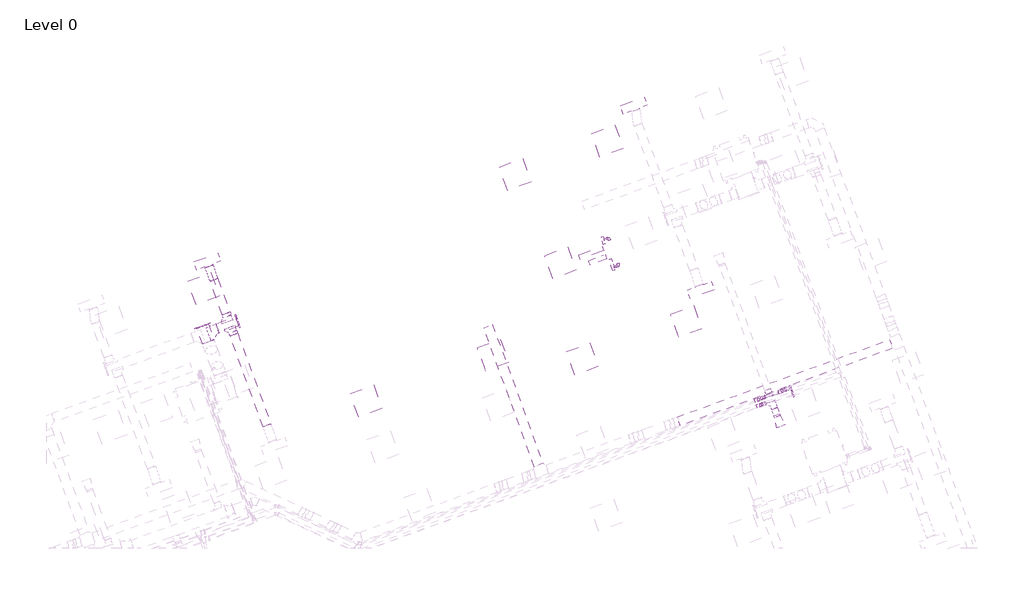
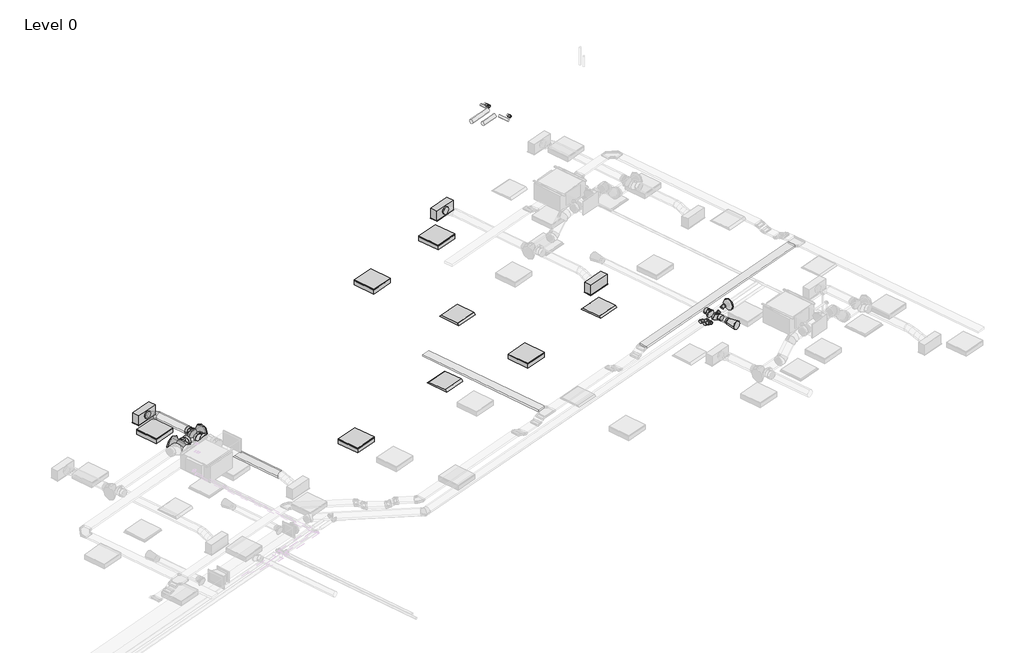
# One storey, part 31 of 34: 10 pipe segments, 8 duct fittings, 8 light fixtures, 8 pipe fittings, 6 duct segments, 4 air terminals, 2 cable carrier segments.
"""IFC4 building model written with IfcOpenShell, lengths in millimetres."""

from ifc_helpers import new_model, si_unit, point, frame, frame_2d, origin, place, context, project, spatial, polyline, circle_curve, ellipse_curve, trimmed, segment, composite_curve, outline, extrude, transform, mapped, element, save
from ifc_brep_helpers import plane_surface, cylinder_surface, advanced_brep
from components import air_terminal_0d1c431e, supply_diffuser_with_plenum_linear_slot_hosted_2b730595, dw144_round_blank_end_standard_8c6f93a0, dw144_round_blank_end_standard_e3d0b58b, dw144_round_blank_end_standard_5beff049, dw144_round_shoe_branch_slip_joint1_standard_2_0dbb398a, dw144_round_shoe_branch_slip_joint1_standard_2_15a2edd8, dw144_round_shoe_branch_slip_joint1_standard_2_ce91aa06, dw144_round_shoe_branch_slip_joint1_standard_2_54bfcc3c, light_fixture_b730b5ca, troffer_light_2x2_parabolic_2_x2_2_lamp_120v_6a063ff3, elbow_plain_abs_standard_192b4b37, elbow_threaded_gmi_standard_e52ea759

model = new_model("IFC4")

# Units and contexts
model_context = context("Model", 3, world=origin())
ifc_project = project(units=[si_unit("LENGTHUNIT", "METRE", prefix="MILLI")], contexts=[model_context])

# Site, building, storey
site = spatial("IfcSite", under=ifc_project)
building = spatial("IfcBuilding", under=site)
storey = spatial("IfcBuildingStorey", under=building, Name="Level 0", Elevation=0.0)

# Air terminals
placement = place(None, origin())
air_terminal_shape = air_terminal_0d1c431e(model_context)
element("IfcAirTerminal", 1, ObjectType="Supply_Bell_Mouth_Grille : Supply_Bell_Mouth_Grille", at=placement, inside=storey, context=model_context, shape_type="MappedRepresentation", body=[
    mapped(air_terminal_shape, transform((59441.0619748, 16002.7415496, 3050.0), x_axis=(0.3420201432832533, -0.9396926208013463, 0.0), y_axis=(0.9396926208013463, 0.3420201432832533, 0.0), z_axis=(0.0, 0.0, 1.0))),
])
supply_diffuser_with_plenum_linear_slot_hosted_shape = supply_diffuser_with_plenum_linear_slot_hosted_2b730595(model_context)
element("IfcAirTerminal", 2, ObjectType="Supply Diffuser with Plenum - Linear Slot - Hosted : 24\" x 8\"-200 In Inlet  4-Slot", at=placement, inside=storey, context=model_context, shape_type="MappedRepresentation", body=[
    mapped(supply_diffuser_with_plenum_linear_slot_hosted_shape, transform((45507.8020498, 19798.6228469, 2800.0), x_axis=(-0.9396926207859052, -0.3420201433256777, 0.0), y_axis=(-0.3420201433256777, 0.9396926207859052, 0.0), z_axis=(0.0, 0.0, -1.0))),
])
element("IfcAirTerminal", 3, ObjectType="Supply Diffuser with Plenum - Linear Slot - Hosted : 24\" x 8\"-200 In Inlet  4-Slot", at=placement, inside=storey, context=model_context, shape_type="MappedRepresentation", body=[
    mapped(supply_diffuser_with_plenum_linear_slot_hosted_shape, transform((55928.2677465, 23610.3577605, 2800.0), x_axis=(-0.9396926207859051, -0.3420201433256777, 0.0), y_axis=(-0.3420201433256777, 0.9396926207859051, 0.0), z_axis=(0.0, 0.0, -1.0))),
])
element("IfcAirTerminal", 4, ObjectType="Supply Diffuser with Plenum - Linear Slot - Hosted : 24\" x 8\"-200 In Inlet  4-Slot", at=placement, inside=storey, context=model_context, shape_type="MappedRepresentation", body=[
    mapped(supply_diffuser_with_plenum_linear_slot_hosted_shape, transform((57569.9644345, 19099.8331807, 2800.0), x_axis=(0.939692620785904, 0.342020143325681, 0.0), y_axis=(0.342020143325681, -0.939692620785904, 0.0), z_axis=(0.0, 0.0, -1.0))),
])

# Cable carrier segments
element("IfcCableCarrierSegment", 5, ObjectType="Perforated Cable Tray", at=placement, inside=storey, context=model_context, shape_type="SweptSolid", body=[
    extrude(outline(polyline([(57064.256116, 15784.4127054), (56987.3015838, 15995.8435451), (62175.5159364, 17884.1991384), (62252.4704687, 17672.7682988), (57064.256116, 15784.4127054)])), frame((0.0, 0.0, 3223.9627355), z_axis=(0.0, 0.0, 1.0), x_axis=(1.0, 0.0, 0.0)), (0.0, 0.0, 1.0), 50.0),
])
element("IfcCableCarrierSegment", 6, ObjectType="Perforated Cable Tray", at=placement, inside=storey, context=model_context, shape_type="SweptSolid", body=[
    extrude(outline(polyline([(53712.3288317, 14857.0598339), (53500.897992, 14780.1053017), (52264.8463348, 18176.1293191), (52476.2771745, 18253.0838513), (53712.3288317, 14857.0598339)])), frame((0.0, 0.0, 3223.9627355), z_axis=(0.0, 0.0, 1.0), x_axis=(1.0, 0.0, 0.0)), (0.0, 0.0, 1.0), 50.0),
])

# Duct fittings
dw144_round_blank_end_standard_shape = dw144_round_blank_end_standard_8c6f93a0(model_context)
element("IfcDuctFitting", 7, ObjectType="DW144 Round Blank End : Standard", at=placement, inside=storey, context=model_context, shape_type="MappedRepresentation", body=[
    mapped(dw144_round_blank_end_standard_shape, transform((45393.8401716, 18213.3017532, 3072.2088531), x_axis=(-0.3420201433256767, 0.9396926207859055, 0.0), y_axis=(-0.9396926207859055, -0.3420201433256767, 0.0), z_axis=(0.0, 0.0, 1.0))),
])
dw144_round_blank_end_standard_2_shape = dw144_round_blank_end_standard_e3d0b58b(model_context)
element("IfcDuctFitting", 8, ObjectType="DW144 Round Blank End : Standard", at=placement, inside=storey, context=model_context, shape_type="MappedRepresentation", body=[
    mapped(dw144_round_blank_end_standard_2_shape, transform((46241.3458374, 18331.6052055, 3072.2088531), x_axis=(0.9396926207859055, 0.3420201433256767, 0.0), y_axis=(-0.3420201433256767, 0.9396926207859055, 0.0), z_axis=(0.0, 0.0, 1.0))),
])
dw144_round_blank_end_standard_3_shape = dw144_round_blank_end_standard_5beff049(model_context)
element("IfcDuctFitting", 9, ObjectType="DW144 Round Blank End : Standard", at=placement, inside=storey, context=model_context, shape_type="MappedRepresentation", body=[
    mapped(dw144_round_blank_end_standard_3_shape, transform((59783.5120284, 16619.7977036, 3050.0), x_axis=(0.9396926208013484, 0.34202014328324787, 0.0), y_axis=(-0.34202014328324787, 0.9396926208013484, 0.0), z_axis=(0.0, 0.0, 1.0))),
])
dw144_round_shoe_branch_slip_joint1_standard_2_shape = dw144_round_shoe_branch_slip_joint1_standard_2_0dbb398a(model_context)
element("IfcDuctFitting", 10, ObjectType="DW144 Round Shoe Branch - Slip Joint1 : Standard 2", at=placement, inside=storey, context=model_context, shape_type="MappedRepresentation", body=[
    mapped(dw144_round_shoe_branch_slip_joint1_standard_2_shape, transform((45595.9113981, 18096.6862814, 3072.2088531), x_axis=(0.9396926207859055, 0.3420201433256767, 0.0), y_axis=(0.3420201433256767, -0.9396926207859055, 0.0), z_axis=(0.0, 0.0, -1.0))),
])
dw144_round_shoe_branch_slip_joint1_standard_2_2_shape = dw144_round_shoe_branch_slip_joint1_standard_2_15a2edd8(model_context)
element("IfcDuctFitting", 11, ObjectType="DW144 Round Shoe Branch - Slip Joint1 : Standard 2", at=placement, inside=storey, context=model_context, shape_type="MappedRepresentation", body=[
    mapped(dw144_round_shoe_branch_slip_joint1_standard_2_2_shape, transform((46022.3482361, 18384.9188188, 3072.2088531), x_axis=(-0.3420201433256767, 0.9396926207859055, 0.0), y_axis=(0.9396926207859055, 0.3420201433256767, 0.0), z_axis=(0.0, 0.0, -1.0))),
])
element("IfcDuctFitting", 12, ObjectType="DW144 Round Shoe Branch - Slip Joint1 : Standard 2", at=placement, inside=storey, context=model_context, shape_type="MappedRepresentation", body=[
    mapped(dw144_round_shoe_branch_slip_joint1_standard_2_2_shape, transform((46107.8532719, 18149.9956636, 3072.2088531), x_axis=(0.3420201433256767, -0.9396926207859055, 0.0), y_axis=(0.9396926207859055, 0.3420201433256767, 0.0), z_axis=(0.0, 0.0, 1.0))),
])
dw144_round_shoe_branch_slip_joint1_standard_2_3_shape = dw144_round_shoe_branch_slip_joint1_standard_2_ce91aa06(model_context)
element("IfcDuctFitting", 13, ObjectType="DW144 Round Shoe Branch - Slip Joint1 : Standard 2", at=placement, inside=storey, context=model_context, shape_type="MappedRepresentation", body=[
    mapped(dw144_round_shoe_branch_slip_joint1_standard_2_3_shape, transform((59248.6009819, 16531.5237819, 3050.0), x_axis=(-0.34202014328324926, 0.9396926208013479, 0.0), y_axis=(0.9396926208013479, 0.34202014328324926, 0.0), z_axis=(0.0, 0.0, -1.0))),
])
dw144_round_shoe_branch_slip_joint1_standard_2_4_shape = dw144_round_shoe_branch_slip_joint1_standard_2_54bfcc3c(model_context)
element("IfcDuctFitting", 14, ObjectType="DW144 Round Shoe Branch - Slip Joint1 : Standard 2", at=placement, inside=storey, context=model_context, shape_type="MappedRepresentation", body=[
    mapped(dw144_round_shoe_branch_slip_joint1_standard_2_4_shape, transform((59317.0050106, 16343.5852578, 3050.0), x_axis=(0.3420201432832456, -0.9396926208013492, 0.0), y_axis=(-0.9396926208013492, -0.3420201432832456, 0.0), z_axis=(0.0, 0.0, -1.0))),
])

# Duct segments
element("IfcDuctSegment", 15, ObjectType="DW144 Segmented Bend / Shoe Branch", at=placement, inside=storey, context=model_context, shape_type="SweptSolid", body=[
    extrude(outline(composite_curve([segment(trimmed(circle_curve(frame_2d((0.0, 150.0)), 150.0), [point((150.0, 150.0))], [point((0.0, 0.0))], False, "CARTESIAN"), True, "CONTINUOUS"), segment(trimmed(circle_curve(frame_2d((0.0, 150.0)), 150.0), [point((0.0, 0.0))], [point((-150.0, 150.0))], False, "CARTESIAN"), True, "CONTINUOUS"), segment(trimmed(circle_curve(frame_2d((0.0, 150.0)), 150.0), [point((-150.0, 150.0))], [point((0.0, 300.0))], False, "CARTESIAN"), True, "CONTINUOUS"), segment(trimmed(circle_curve(frame_2d((0.0, 150.0)), 150.0), [point((0.0, 300.0))], [point((150.0, 150.0))], False, "CARTESIAN"), True, "CONTINUOUS")], self_intersect=False)), frame((45534.539793, 17826.7327206, 3222.2088531), z_axis=(-0.34202014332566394, 0.9396926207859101, 0.0), x_axis=(0.9396926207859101, 0.34202014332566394, 0.0)), (0.0, 0.0, 1.0), 411.3781721),
])
element("IfcDuctSegment", 16, ObjectType="DW144 Segmented Bend / Shoe Branch", at=placement, inside=storey, context=model_context, shape_type="SweptSolid", body=[
    extrude(outline(composite_curve([segment(trimmed(circle_curve(frame_2d((0.0, 125.0)), 125.0), [point((125.0, 125.0))], [point((0.0, 0.0))], False, "CARTESIAN"), True, "CONTINUOUS"), segment(trimmed(circle_curve(frame_2d((0.0, 125.0)), 125.0), [point((0.0, 0.0))], [point((-125.0, 125.0))], False, "CARTESIAN"), True, "CONTINUOUS"), segment(trimmed(circle_curve(frame_2d((0.0, 125.0)), 125.0), [point((-125.0, 125.0))], [point((0.0, 250.0))], False, "CARTESIAN"), True, "CONTINUOUS"), segment(trimmed(circle_curve(frame_2d((0.0, 125.0)), 125.0), [point((0.0, 250.0))], [point((125.0, 125.0))], False, "CARTESIAN"), True, "CONTINUOUS")], self_intersect=False)), frame((45760.3576068, 18156.5398065, 3197.2088531), z_axis=(0.9396926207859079, 0.3420201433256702, 0.0), x_axis=(0.3420201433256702, -0.9396926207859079, 0.0)), (0.0, 0.0, 1.0), 511.8569839),
])
element("IfcDuctSegment", 17, ObjectType="DW144 Segmented Bend / Shoe Branch", at=placement, inside=storey, context=model_context, shape_type="SweptSolid", body=[
    extrude(outline(composite_curve([segment(trimmed(circle_curve(frame_2d((0.0, 100.0)), 100.0), [point((100.0, 100.0))], [point((0.0, 0.0))], False, "CARTESIAN"), True, "CONTINUOUS"), segment(trimmed(circle_curve(frame_2d((0.0, 100.0)), 100.0), [point((0.0, 0.0))], [point((-100.0, 100.0))], False, "CARTESIAN"), True, "CONTINUOUS"), segment(trimmed(circle_curve(frame_2d((0.0, 100.0)), 100.0), [point((-100.0, 100.0))], [point((0.0, 200.0))], False, "CARTESIAN"), True, "CONTINUOUS"), segment(trimmed(circle_curve(frame_2d((0.0, 100.0)), 100.0), [point((0.0, 200.0))], [point((100.0, 100.0))], False, "CARTESIAN"), True, "CONTINUOUS")], self_intersect=False)), frame((45971.0452146, 18525.8727119, 3172.2088531), z_axis=(-0.34202014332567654, 0.9396926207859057, 0.0), x_axis=(0.9396926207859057, 0.34202014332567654, 0.0)), (0.0, 0.0, 1.0), 876.1305848),
])
element("IfcDuctSegment", 18, ObjectType="DW144 Segmented Bend / Shoe Branch", at=placement, inside=storey, context=model_context, shape_type="SweptSolid", body=[
    extrude(outline(composite_curve([segment(trimmed(circle_curve(frame_2d((0.0, -100.0)), 100.0), [point((-99.9999999, -100.0))], [point((0.0, 0.0))], False, "CARTESIAN"), True, "CONTINUOUS"), segment(trimmed(circle_curve(frame_2d((0.0, -100.0)), 100.0), [point((0.0, 0.0))], [point((100.0, -100.0))], False, "CARTESIAN"), True, "CONTINUOUS"), segment(trimmed(circle_curve(frame_2d((0.0, -100.0)), 100.0), [point((100.0, -100.0))], [point((0.0, -200.0))], False, "CARTESIAN"), True, "CONTINUOUS"), segment(trimmed(circle_curve(frame_2d((0.0, -100.0)), 100.0), [point((0.0, -200.0))], [point((-99.9999999, -100.0))], False, "CARTESIAN"), True, "CONTINUOUS")], self_intersect=False)), frame((46967.6472496, 15787.7311245, 2972.2088531), z_axis=(-0.34202014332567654, 0.9396926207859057, 0.0), x_axis=(0.9396926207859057, 0.34202014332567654, 0.0)), (0.0, 0.0, 1.0), 2363.8694152),
])
element("IfcDuctSegment", 19, ObjectType="DW144 Segmented Bend / Shoe Branch", at=placement, inside=storey, context=model_context, shape_type="SweptSolid", body=[
    extrude(outline(composite_curve([segment(trimmed(circle_curve(frame_2d((0.0, -75.0)), 75.0), [point((-74.9999999, -75.0))], [point((0.0, 0.0))], False, "CARTESIAN"), True, "CONTINUOUS"), segment(trimmed(circle_curve(frame_2d((0.0, -75.0)), 75.0), [point((0.0, 0.0))], [point((75.0, -75.0))], False, "CARTESIAN"), True, "CONTINUOUS"), segment(trimmed(circle_curve(frame_2d((0.0, -75.0)), 75.0), [point((75.0, -75.0))], [point((0.0, -150.0))], False, "CARTESIAN"), True, "CONTINUOUS"), segment(trimmed(circle_curve(frame_2d((0.0, -75.0)), 75.0), [point((0.0, -150.0))], [point((-74.9999999, -75.0))], False, "CARTESIAN"), True, "CONTINUOUS")], self_intersect=False)), frame((59441.0619748, 16002.7415496, 2975.0), z_axis=(-0.34202014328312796, 0.939692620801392, 0.0), x_axis=(0.939692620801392, 0.34202014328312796, 0.0)), (0.0, 0.0, 1.0), 212.7182981),
])
element("IfcDuctSegment", 20, ObjectType="Flex - Round", at=placement, inside=storey, context=model_context, shape_type="AdvancedBrep", body=[
    advanced_brep(
    [(45577.4216444, 19314.9641429, 3072.2088531), (45671.3909064, 19349.1661573, 2972.2088531), (45765.3601685, 19383.3681716, 3072.2088531), (45671.3909064, 19349.1661573, 3172.2088531), (45570.5409158, 19333.8687892, 3072.2088531), (45668.9621271, 19355.8391736, 2972.2088531), (45758.47944, 19402.2728178, 3072.2088531), (45660.0582287, 19380.3024334, 3172.2088531), (45457.269346, 19645.0798697, 2954.4), (45551.238608, 19679.281884, 3054.4), (45645.2078701, 19713.4838984, 2954.4), (45551.238608, 19679.281884, 2854.4), (45546.7670553, 19399.1869342, 3053.8012198), (45652.4940791, 19401.0847638, 2959.4579669), (45734.7055794, 19467.5909629, 3053.8012198), (45628.9785557, 19465.6931333, 3148.1444727), (45517.3454952, 19480.0220063, 3013.3044266), (45625.882419, 19474.1996989, 2922.8288116), (45705.2840193, 19548.426035, 3013.3044266), (45596.7470955, 19554.2483424, 3103.7800415), (45487.923935, 19560.8570784, 2972.8076333), (45593.6509588, 19562.754908, 2878.4643804), (45675.8624592, 19629.2611071, 2972.8076333), (45570.1354354, 19627.3632775, 3067.1508862), (45464.1500745, 19626.1752235, 2954.4), (45562.5712858, 19648.1456079, 2854.4), (45652.0885986, 19694.5792521, 2954.4), (45553.6673873, 19672.6088677, 3054.4)],
    [
        (0, 1, circle_curve(frame((45671.3909064, 19349.1661573, 3072.2088531), z_axis=(0.3420201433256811, -0.939692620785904, 0.0), x_axis=(-0.939692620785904, -0.3420201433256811, 0.0)), 100.0)),
        (1, 2, circle_curve(frame((45671.3909064, 19349.1661573, 3072.2088531), z_axis=(0.3420201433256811, -0.939692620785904, 0.0), x_axis=(-0.939692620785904, -0.3420201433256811, 0.0)), 100.0)),
        (2, 3, circle_curve(frame((45671.3909064, 19349.1661573, 3072.2088531), z_axis=(0.3420201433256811, -0.939692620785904, 0.0), x_axis=(-0.939692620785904, -0.3420201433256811, 0.0)), 100.0)),
        (3, 0, circle_curve(frame((45671.3909064, 19349.1661573, 3072.2088531), z_axis=(0.3420201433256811, -0.939692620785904, 0.0), x_axis=(-0.939692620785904, -0.3420201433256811, 0.0)), 100.0)),
        (0, 4),
        (4, 5, ellipse_curve(frame((45664.5101779, 19368.0708035, 3072.2088531), z_axis=(0.3391589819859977, -0.9318316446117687, 0.12907738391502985), x_axis=(0.04414706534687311, -0.12129306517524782, -0.9916345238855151)), 100.8436048, 100.0)),
        (5, 1),
        (5, 6, ellipse_curve(frame((45664.5101779, 19368.0708035, 3072.2088531), z_axis=(0.3391589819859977, -0.9318316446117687, 0.12907738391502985), x_axis=(0.04414706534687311, -0.12129306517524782, -0.9916345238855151)), 100.8436048, 100.0)),
        (6, 2),
        (6, 7, ellipse_curve(frame((45664.5101779, 19368.0708035, 3072.2088531), z_axis=(0.3391589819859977, -0.9318316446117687, 0.12907738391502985), x_axis=(0.04414706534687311, -0.12129306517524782, -0.9916345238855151)), 100.8436048, 100.0)),
        (7, 3),
        (7, 4, ellipse_curve(frame((45664.5101779, 19368.0708035, 3072.2088531), z_axis=(0.3391589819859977, -0.9318316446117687, 0.12907738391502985), x_axis=(0.04414706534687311, -0.12129306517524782, -0.9916345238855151)), 100.8436048, 100.0)),
        (8, 9, circle_curve(frame((45551.238608, 19679.281884, 2954.4), z_axis=(-0.3420201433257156, 0.9396926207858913, 0.0), x_axis=(-0.9396926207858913, -0.3420201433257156, 0.0)), 100.0)),
        (9, 10, circle_curve(frame((45551.238608, 19679.281884, 2954.4), z_axis=(-0.3420201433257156, 0.9396926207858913, 0.0), x_axis=(-0.9396926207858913, -0.3420201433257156, 0.0)), 100.0)),
        (10, 11, circle_curve(frame((45551.238608, 19679.281884, 2954.4), z_axis=(-0.3420201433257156, 0.9396926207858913, 0.0), x_axis=(-0.9396926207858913, -0.3420201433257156, 0.0)), 100.0)),
        (11, 8, circle_curve(frame((45551.238608, 19679.281884, 2954.4), z_axis=(-0.3420201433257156, 0.9396926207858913, 0.0), x_axis=(-0.9396926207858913, -0.3420201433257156, 0.0)), 100.0)),
        (4, 12),
        (12, 13, ellipse_curve(frame((45640.7363174, 19433.3889485, 3053.8012198), z_axis=(0.32135080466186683, -0.8829040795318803, 0.3423653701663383), x_axis=(0.11709585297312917, -0.3217182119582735, -0.9395668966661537)), 100.411427, 100.0)),
        (13, 5),
        (13, 14, ellipse_curve(frame((45640.7363174, 19433.3889485, 3053.8012198), z_axis=(0.32135080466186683, -0.8829040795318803, 0.3423653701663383), x_axis=(0.11709585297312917, -0.3217182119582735, -0.9395668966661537)), 100.411427, 100.0)),
        (14, 6),
        (14, 15, ellipse_curve(frame((45640.7363174, 19433.3889485, 3053.8012198), z_axis=(0.32135080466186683, -0.8829040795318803, 0.3423653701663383), x_axis=(0.11709585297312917, -0.3217182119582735, -0.9395668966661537)), 100.411427, 100.0)),
        (15, 7),
        (15, 12, ellipse_curve(frame((45640.7363174, 19433.3889485, 3053.8012198), z_axis=(0.32135080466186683, -0.8829040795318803, 0.3423653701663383), x_axis=(0.11709585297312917, -0.3217182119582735, -0.9395668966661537)), 100.411427, 100.0)),
        (12, 16),
        (16, 17, circle_curve(frame((45611.3147572, 19514.2240206, 3013.3044266), z_axis=(0.30944482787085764, -0.8501926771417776, 0.425929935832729), x_axis=(-0.939692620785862, -0.34202014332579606, 0.0)), 100.0)),
        (17, 13),
        (17, 18, circle_curve(frame((45611.3147572, 19514.2240206, 3013.3044266), z_axis=(0.30944482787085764, -0.8501926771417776, 0.425929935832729), x_axis=(-0.939692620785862, -0.34202014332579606, 0.0)), 100.0)),
        (18, 14),
        (18, 19, circle_curve(frame((45611.3147572, 19514.2240206, 3013.3044266), z_axis=(0.30944482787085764, -0.8501926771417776, 0.425929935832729), x_axis=(-0.939692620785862, -0.34202014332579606, 0.0)), 100.0)),
        (19, 15),
        (19, 16, circle_curve(frame((45611.3147572, 19514.2240206, 3013.3044266), z_axis=(0.30944482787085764, -0.8501926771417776, 0.425929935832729), x_axis=(-0.939692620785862, -0.34202014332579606, 0.0)), 100.0)),
        (16, 20),
        (20, 21, ellipse_curve(frame((45581.8931971, 19595.0590928, 2972.8076333), z_axis=(0.32135080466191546, -0.8829040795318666, 0.3423653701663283), x_axis=(-0.1170958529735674, 0.32171821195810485, 0.9395668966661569)), 100.411427, 100.0)),
        (21, 17),
        (21, 22, ellipse_curve(frame((45581.8931971, 19595.0590928, 2972.8076333), z_axis=(0.32135080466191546, -0.8829040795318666, 0.3423653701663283), x_axis=(-0.1170958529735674, 0.32171821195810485, 0.9395668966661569)), 100.411427, 100.0)),
        (22, 18),
        (22, 23, ellipse_curve(frame((45581.8931971, 19595.0590928, 2972.8076333), z_axis=(0.32135080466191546, -0.8829040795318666, 0.3423653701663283), x_axis=(-0.1170958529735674, 0.32171821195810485, 0.9395668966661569)), 100.411427, 100.0)),
        (23, 19),
        (23, 20, ellipse_curve(frame((45581.8931971, 19595.0590928, 2972.8076333), z_axis=(0.32135080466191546, -0.8829040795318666, 0.3423653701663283), x_axis=(-0.1170958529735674, 0.32171821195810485, 0.9395668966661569)), 100.411427, 100.0)),
        (20, 24),
        (24, 25, ellipse_curve(frame((45558.1193365, 19660.3772378, 2954.4), z_axis=(0.3391589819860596, -0.9318316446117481, 0.12907738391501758), x_axis=(-0.04414706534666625, 0.12129306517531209, 0.9916345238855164)), 100.8436048, 100.0)),
        (25, 21),
        (25, 26, ellipse_curve(frame((45558.1193365, 19660.3772378, 2954.4), z_axis=(0.3391589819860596, -0.9318316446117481, 0.12907738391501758), x_axis=(-0.04414706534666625, 0.12129306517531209, 0.9916345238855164)), 100.8436048, 100.0)),
        (26, 22),
        (26, 27, ellipse_curve(frame((45558.1193365, 19660.3772378, 2954.4), z_axis=(0.3391589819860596, -0.9318316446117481, 0.12907738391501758), x_axis=(-0.04414706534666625, 0.12129306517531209, 0.9916345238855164)), 100.8436048, 100.0)),
        (27, 23),
        (27, 24, ellipse_curve(frame((45558.1193365, 19660.3772378, 2954.4), z_axis=(0.3391589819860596, -0.9318316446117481, 0.12907738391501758), x_axis=(-0.04414706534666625, 0.12129306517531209, 0.9916345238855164)), 100.8436048, 100.0)),
        (24, 8),
        (11, 25),
        (10, 26),
        (9, 27),
    ],
    [
        plane_surface(frame((45671.3909064, 19349.1661573, 3172.2088531), z_axis=(0.3420201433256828, -0.9396926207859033, 0.0), x_axis=(0.9396926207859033, 0.3420201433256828, 0.0))),
        cylinder_surface(frame((45671.3909064, 19349.1661573, 3072.2088531), z_axis=(0.3420201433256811, -0.939692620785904, 0.0), x_axis=(-0.939692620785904, -0.3420201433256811, 0.0)), 100.0),
        plane_surface(frame((45551.238608, 19679.281884, 3054.4), z_axis=(-0.3420201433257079, 0.9396926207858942, 0.0), x_axis=(0.9396926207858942, 0.3420201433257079, 0.0))),
        cylinder_surface(frame((45664.5101779, 19368.0708035, 3072.2088531), z_axis=(0.33062336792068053, -0.9083802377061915, 0.2559951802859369), x_axis=(-0.9396926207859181, -0.3420201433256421, 0.0)), 100.0),
        cylinder_surface(frame((45640.7363174, 19433.3889485, 3053.8012198), z_axis=(0.30944482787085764, -0.8501926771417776, 0.425929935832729), x_axis=(-0.939692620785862, -0.34202014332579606, 0.0)), 100.0),
        cylinder_surface(frame((45611.3147572, 19514.2240206, 3013.3044266), z_axis=(0.30944482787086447, -0.8501926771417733, 0.4259299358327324), x_axis=(-0.9396926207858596, -0.3420201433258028, 0.0)), 100.0),
        cylinder_surface(frame((45581.8931971, 19595.0590928, 2972.8076333), z_axis=(0.3306233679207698, -0.908380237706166, 0.2559951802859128), x_axis=(-0.9396926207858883, -0.34202014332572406, 0.0)), 100.0),
        cylinder_surface(frame((45558.1193365, 19660.3772378, 2954.4), z_axis=(0.3420201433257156, -0.9396926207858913, 0.0), x_axis=(-0.9396926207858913, -0.3420201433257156, 0.0)), 100.0),
    ],
    [
        (0, [[1, 2, 3, 4]]),
        (1, [[-1, 5, 6, 7]]),
        (1, [[-2, -7, 8, 9]]),
        (1, [[-3, -9, 10, 11]]),
        (1, [[-4, -11, 12, -5]]),
        (2, [[13, 14, 15, 16]]),
        (3, [[-6, 17, 18, 19]]),
        (3, [[-8, -19, 20, 21]]),
        (3, [[-10, -21, 22, 23]]),
        (3, [[-12, -23, 24, -17]]),
        (4, [[-18, 25, 26, 27]]),
        (4, [[-20, -27, 28, 29]]),
        (4, [[-22, -29, 30, 31]]),
        (4, [[-24, -31, 32, -25]]),
        (5, [[-26, 33, 34, 35]]),
        (5, [[-28, -35, 36, 37]]),
        (5, [[-30, -37, 38, 39]]),
        (5, [[-32, -39, 40, -33]]),
        (6, [[-34, 41, 42, 43]]),
        (6, [[-36, -43, 44, 45]]),
        (6, [[-38, -45, 46, 47]]),
        (6, [[-40, -47, 48, -41]]),
        (7, [[-42, 49, -16, 50]]),
        (7, [[-44, -50, -15, 51]]),
        (7, [[-46, -51, -14, 52]]),
        (7, [[-48, -52, -13, -49]]),
    ],
),
])

# Light fixtures
light_fixture_shape = light_fixture_b730b5ca(model_context)
element("IfcLightFixture", 21, ObjectType="ELEKTRA EM Recessed Lighting Fixture : 24\" x 24\" - 230", at=placement, inside=storey, context=model_context, shape_type="MappedRepresentation", body=[
    mapped(light_fixture_shape, transform((52312.6795837, 17126.211938, 2800.0), x_axis=(0.9396926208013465, 0.342020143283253, 0.0), y_axis=(0.342020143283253, -0.9396926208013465, 0.0), z_axis=(0.0, 0.0, -1.0))),
])
element("IfcLightFixture", 22, ObjectType="ELEKTRA EM Recessed Lighting Fixture : 24\" x 24\" - 230", at=placement, inside=storey, context=model_context, shape_type="MappedRepresentation", body=[
    mapped(light_fixture_shape, transform((57032.0592046, 17946.2916931, 2800.0), x_axis=(0.9396926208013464, 0.34202014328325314, 0.0), y_axis=(0.34202014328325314, -0.9396926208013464, 0.0), z_axis=(0.0, 0.0, -1.0))),
])
element("IfcLightFixture", 23, ObjectType="ELEKTRA EM Recessed Lighting Fixture : 24\" x 24\" - 230", at=placement, inside=storey, context=model_context, shape_type="MappedRepresentation", body=[
    mapped(light_fixture_shape, transform((53955.9485708, 19380.7056391, 2800.0), x_axis=(0.9396926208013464, 0.34202014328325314, 0.0), y_axis=(0.34202014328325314, -0.9396926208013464, 0.0), z_axis=(0.0, 0.0, -1.0))),
])
troffer_light_2x2_parabolic_2_x2_2_lamp_120v_shape = troffer_light_2x2_parabolic_2_x2_2_lamp_120v_6a063ff3(model_context)
element("IfcLightFixture", 24, ObjectType="Troffer Light - 2x2 Parabolic : 2'x2'(2 Lamp) - 120V", at=placement, inside=storey, context=model_context, shape_type="MappedRepresentation", body=[
    mapped(troffer_light_2x2_parabolic_2_x2_2_lamp_120v_shape, transform((45522.7179893, 18846.2918096, 2800.0), x_axis=(0.9396926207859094, 0.34202014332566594, 0.0), y_axis=(0.34202014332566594, -0.9396926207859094, 0.0), z_axis=(0.0, 0.0, -1.0))),
])
element("IfcLightFixture", 25, ObjectType="Troffer Light - 2x2 Parabolic : 2'x2'(2 Lamp) - 120V", at=placement, inside=storey, context=model_context, shape_type="MappedRepresentation", body=[
    mapped(troffer_light_2x2_parabolic_2_x2_2_lamp_120v_shape, transform((49493.6017213, 16100.1515081, 2800.0), x_axis=(0.9396926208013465, 0.342020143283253, 0.0), y_axis=(0.342020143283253, -0.9396926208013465, 0.0), z_axis=(0.0, 0.0, -1.0))),
])
element("IfcLightFixture", 26, ObjectType="Troffer Light - 2x2 Parabolic : 2'x2'(2 Lamp) - 120V", at=placement, inside=storey, context=model_context, shape_type="MappedRepresentation", body=[
    mapped(troffer_light_2x2_parabolic_2_x2_2_lamp_120v_shape, transform((55390.3625169, 22456.8162729, 2800.0), x_axis=(0.9396926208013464, 0.34202014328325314, 0.0), y_axis=(0.34202014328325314, -0.9396926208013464, 0.0), z_axis=(0.0, 0.0, -1.0))),
])
element("IfcLightFixture", 27, ObjectType="Troffer Light - 2x2 Parabolic : 2'x2'(2 Lamp) - 120V", at=placement, inside=storey, context=model_context, shape_type="MappedRepresentation", body=[
    mapped(troffer_light_2x2_parabolic_2_x2_2_lamp_120v_shape, transform((53135.100227, 21635.967929, 2800.0), x_axis=(0.9396926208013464, 0.34202014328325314, 0.0), y_axis=(0.34202014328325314, -0.9396926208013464, 0.0), z_axis=(0.0, 0.0, -1.0))),
])
element("IfcLightFixture", 28, ObjectType="Troffer Light - 2x2 Parabolic : 2'x2'(2 Lamp) - 120V", at=placement, inside=storey, context=model_context, shape_type="MappedRepresentation", body=[
    mapped(troffer_light_2x2_parabolic_2_x2_2_lamp_120v_shape, transform((54776.7969147, 17125.4433492, 2800.0), x_axis=(0.9396926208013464, 0.34202014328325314, 0.0), y_axis=(0.34202014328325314, -0.9396926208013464, 0.0), z_axis=(0.0, 0.0, -1.0))),
])

# Pipe fittings
elbow_plain_abs_standard_shape = elbow_plain_abs_standard_192b4b37(model_context)
element("IfcPipeFitting", 29, ObjectType="Elbow - Plain - ABS : Standard", at=placement, inside=storey, context=model_context, shape_type="MappedRepresentation", body=[
    mapped(elbow_plain_abs_standard_shape, transform((55561.4010167, 19697.4018191, 8137.881988), x_axis=(0.664463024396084, 0.2418447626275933, -0.7071067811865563), y_axis=(-0.34787963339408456, 0.9375183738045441, -0.0062497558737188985), z_axis=(0.6614141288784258, 0.2501407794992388, 0.7070791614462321))),
])
element("IfcPipeFitting", 30, ObjectType="Elbow - Plain - ABS : Standard", at=placement, inside=storey, context=model_context, shape_type="MappedRepresentation", body=[
    mapped(elbow_plain_abs_standard_shape, transform((55316.4258531, 20370.4655494, 8137.881988), x_axis=(0.6644630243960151, 0.24184476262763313, -0.7071067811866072), y_axis=(0.3361339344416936, -0.9417934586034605, -0.006249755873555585), z_axis=(-0.6674600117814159, -0.2335298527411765, -0.7070791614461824))),
])
elbow_threaded_gmi_standard_shape = elbow_threaded_gmi_standard_e52ea759(model_context)
element("IfcPipeFitting", 31, ObjectType="Elbow - Threaded - GMI : Standard", at=placement, inside=storey, context=model_context, shape_type="MappedRepresentation", body=[
    mapped(elbow_threaded_gmi_standard_shape, transform((58932.6532069, 16408.2765687, 3000.0), x_axis=(0.9396926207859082, 0.3420201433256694, 0.0), y_axis=(0.0, 0.0, -1.0000000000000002), z_axis=(-0.3420201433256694, 0.9396926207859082, 0.0))),
])
element("IfcPipeFitting", 32, ObjectType="Elbow - Threaded - GMI : Standard", at=placement, inside=storey, context=model_context, shape_type="MappedRepresentation", body=[
    mapped(elbow_threaded_gmi_standard_shape, transform((59095.4127432, 16467.5161953, 2900.0), x_axis=(-0.9396926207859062, -0.34202014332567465, 0.0), y_axis=(0.0, 0.0, 1.0), z_axis=(-0.34202014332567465, 0.9396926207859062, 0.0))),
])
element("IfcPipeFitting", 33, ObjectType="Elbow - Threaded - GMI : Standard", at=placement, inside=storey, context=model_context, shape_type="MappedRepresentation", body=[
    mapped(elbow_threaded_gmi_standard_shape, transform((59506.806633, 16617.2513258, 2900.0), x_axis=(-0.8137976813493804, -0.2961981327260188, -0.4999999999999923), y_axis=(-0.46984631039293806, -0.1710100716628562, 0.8660254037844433), z_axis=(-0.3420201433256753, 0.9396926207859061, 0.0))),
])
element("IfcPipeFitting", 34, ObjectType="Elbow - Threaded - GMI : Standard", at=placement, inside=storey, context=model_context, shape_type="MappedRepresentation", body=[
    mapped(elbow_threaded_gmi_standard_shape, transform((59669.5661693, 16676.4909523, 3000.0), x_axis=(0.8137976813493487, 0.2961981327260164, 0.5000000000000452), y_axis=(0.4698463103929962, 0.17101007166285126, -0.8660254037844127), z_axis=(-0.34202014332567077, 0.9396926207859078, 0.0))),
])
element("IfcPipeFitting", 35, ObjectType="Elbow - Threaded - GMI : Standard", at=placement, inside=storey, context=model_context, shape_type="MappedRepresentation", body=[
    mapped(elbow_threaded_gmi_standard_shape, transform((58981.4187988, 16274.2942063, 3000.0), x_axis=(0.939692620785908, 0.34202014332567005, 0.0), y_axis=(0.0, 0.0, -1.0000000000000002), z_axis=(-0.34202014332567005, 0.939692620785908, 0.0))),
])
element("IfcPipeFitting", 36, ObjectType="Elbow - Threaded - GMI : Standard", at=placement, inside=storey, context=model_context, shape_type="MappedRepresentation", body=[
    mapped(elbow_threaded_gmi_standard_shape, transform((59103.488451, 16318.7239262, 2925.0), x_axis=(-0.9396926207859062, -0.34202014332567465, 0.0), y_axis=(0.0, 0.0, 1.0), z_axis=(-0.34202014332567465, 0.9396926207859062, 0.0))),
])

# Pipe segments
element("IfcPipeSegment", 37, ObjectType="ABS - Solvent Welded", at=placement, inside=storey, context=model_context, shape_type="SweptSolid", body=[
    extrude(outline(composite_curve([segment(trimmed(circle_curve(frame_2d((0.0, -25.0)), 25.0), [point((11.4415384, -47.2281622))], [point((-22.2281623, -36.4415385))], False, "CARTESIAN"), True, "CONTINUOUS"), segment(trimmed(circle_curve(frame_2d((0.0, -25.0)), 25.0), [point((-22.2281623, -36.4415385))], [point((-11.4415384, -2.7718377))], False, "CARTESIAN"), True, "CONTINUOUS"), segment(trimmed(circle_curve(frame_2d((0.0, -25.0)), 25.0), [point((-11.4415384, -2.7718377))], [point((22.2281623, -13.5584615))], False, "CARTESIAN"), True, "CONTINUOUS"), segment(trimmed(circle_curve(frame_2d((0.0, -25.0)), 25.0), [point((22.2281623, -13.5584615))], [point((11.4415384, -47.2281622))], False, "CARTESIAN"), True, "CONTINUOUS")], self_intersect=False)), frame((55522.1976983, 19706.7876943, 8187.6916775), z_axis=(-0.6644630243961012, -0.24184476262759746, 0.7071067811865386), x_axis=(0.7473211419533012, -0.21503058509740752, 0.6287073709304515)), (0.0, 0.0, 1.0), 89.9928144),
])
element("IfcPipeSegment", 38, ObjectType="ABS - Solvent Welded", at=placement, inside=storey, context=model_context, shape_type="SweptSolid", body=[
    extrude(outline(composite_curve([segment(trimmed(circle_curve(frame_2d((0.0, 25.0)), 25.0), [point((-11.4415385, 47.2281622))], [point((22.2281622, 36.4415385))], False, "CARTESIAN"), True, "CONTINUOUS"), segment(trimmed(circle_curve(frame_2d((0.0, 25.0)), 25.0), [point((22.2281622, 36.4415385))], [point((11.4415384, 2.7718377))], False, "CARTESIAN"), True, "CONTINUOUS"), segment(trimmed(circle_curve(frame_2d((0.0, 25.0)), 25.0), [point((11.4415384, 2.7718377))], [point((-22.2281623, 13.5584616))], False, "CARTESIAN"), True, "CONTINUOUS"), segment(trimmed(circle_curve(frame_2d((0.0, 25.0)), 25.0), [point((-22.2281623, 13.5584616))], [point((-11.4415385, 47.2281622))], False, "CARTESIAN"), True, "CONTINUOUS")], self_intersect=False)), frame((55277.2225347, 20332.5419922, 8171.5108987), z_axis=(-0.6644630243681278, -0.24184476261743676, 0.7071067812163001), x_axis=(0.7473211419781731, -0.21503058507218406, 0.6287073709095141)), (0.0, 0.0, 1.0), 89.9928143),
])
element("IfcPipeSegment", 39, ObjectType="Carbon Steel - Threaded", at=placement, inside=storey, context=model_context, shape_type="SweptSolid", body=[
    extrude(outline(composite_curve([segment(trimmed(circle_curve(frame_2d((0.0, -57.45)), 57.45), [point((-57.4500001, -57.45))], [point((0.0, 0.0))], False, "CARTESIAN"), True, "CONTINUOUS"), segment(trimmed(circle_curve(frame_2d((0.0, -57.45)), 57.45), [point((0.0, 0.0))], [point((57.4499999, -57.45))], False, "CARTESIAN"), True, "CONTINUOUS"), segment(trimmed(circle_curve(frame_2d((0.0, -57.45)), 57.45), [point((57.4499999, -57.45))], [point((0.0, -114.9))], False, "CARTESIAN"), True, "CONTINUOUS"), segment(trimmed(circle_curve(frame_2d((0.0, -57.45)), 57.45), [point((0.0, -114.9))], [point((-57.4500001, -57.45))], False, "CARTESIAN"), True, "CONTINUOUS")], self_intersect=False)), frame((54845.3592801, 19768.8795543, 8077.5051175), z_axis=(0.9396926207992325, 0.3420201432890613, 0.0), x_axis=(0.3420201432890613, -0.9396926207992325, 0.0)), (0.0, 0.0, 1.0), 429.4391814),
])
element("IfcPipeSegment", 40, ObjectType="Carbon Steel - Threaded", at=placement, inside=storey, context=model_context, shape_type="SweptSolid", body=[
    extrude(outline(composite_curve([segment(trimmed(circle_curve(frame_2d((0.0, -57.45)), 57.45), [point((-57.45, -57.45))], [point((0.0, 0.0))], False, "CARTESIAN"), True, "CONTINUOUS"), segment(trimmed(circle_curve(frame_2d((0.0, -57.45)), 57.45), [point((0.0, 0.0))], [point((57.45, -57.45))], False, "CARTESIAN"), True, "CONTINUOUS"), segment(trimmed(circle_curve(frame_2d((0.0, -57.45)), 57.45), [point((57.45, -57.45))], [point((0.0, -114.9))], False, "CARTESIAN"), True, "CONTINUOUS"), segment(trimmed(circle_curve(frame_2d((0.0, -57.45)), 57.45), [point((0.0, -114.9))], [point((-57.45, -57.45))], False, "CARTESIAN"), True, "CONTINUOUS")], self_intersect=False)), frame((54598.6761106, 19901.8933519, 8147.5051175), z_axis=(0.9396926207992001, 0.3420201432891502, 0.0), x_axis=(0.3420201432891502, -0.9396926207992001, 0.0)), (0.0, 0.0, 1.0), 615.7521373),
])
element("IfcPipeSegment", 41, ObjectType="Carbon Steel - Threaded", at=placement, inside=storey, context=model_context, shape_type="SweptSolid", body=[
    extrude(outline(composite_curve([segment(trimmed(circle_curve(frame_2d((0.0, 30.4)), 30.4), [point((30.3999999, 30.4))], [point((0.0, 0.0))], False, "CARTESIAN"), True, "CONTINUOUS"), segment(trimmed(circle_curve(frame_2d((0.0, 30.4)), 30.4), [point((0.0, 0.0))], [point((-30.4, 30.4))], False, "CARTESIAN"), True, "CONTINUOUS"), segment(trimmed(circle_curve(frame_2d((0.0, 30.4)), 30.4), [point((-30.4, 30.4))], [point((0.0, 60.8))], False, "CARTESIAN"), True, "CONTINUOUS"), segment(trimmed(circle_curve(frame_2d((0.0, 30.4)), 30.4), [point((0.0, 60.8))], [point((30.3999999, 30.4))], False, "CARTESIAN"), True, "CONTINUOUS")], self_intersect=False)), frame((55446.6029582, 19582.7938296, 8165.3551175), z_axis=(-0.3420201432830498, 0.9396926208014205, 0.0), x_axis=(0.9396926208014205, 0.3420201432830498, 0.0)), (0.0, 0.0, 1.0), 292.3008313),
])
element("IfcPipeSegment", 42, ObjectType="Carbon Steel - Threaded", at=placement, inside=storey, context=model_context, shape_type="SweptSolid", body=[
    extrude(outline(composite_curve([segment(trimmed(circle_curve(frame_2d((0.0, -30.4)), 30.4), [point((-30.4, -30.4))], [point((0.0, 0.0))], False, "CARTESIAN"), True, "CONTINUOUS"), segment(trimmed(circle_curve(frame_2d((0.0, -30.4)), 30.4), [point((0.0, 0.0))], [point((30.3999999, -30.4))], False, "CARTESIAN"), True, "CONTINUOUS"), segment(trimmed(circle_curve(frame_2d((0.0, -30.4)), 30.4), [point((30.3999999, -30.4))], [point((0.0, -60.8))], False, "CARTESIAN"), True, "CONTINUOUS"), segment(trimmed(circle_curve(frame_2d((0.0, -30.4)), 30.4), [point((0.0, -60.8))], [point((-30.4, -30.4))], False, "CARTESIAN"), True, "CONTINUOUS")], self_intersect=False)), frame((55214.6915731, 20219.9651236, 8174.5551175), z_axis=(-0.34202014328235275, 0.9396926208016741, 0.0), x_axis=(0.9396926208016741, 0.34202014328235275, 0.0)), (0.0, 0.0, 1.0), 190.2234709),
])
element("IfcPipeSegment", 43, ObjectType="Carbon Steel - Threaded", at=placement, inside=storey, context=model_context, shape_type="SweptSolid", body=[
    extrude(outline(composite_curve([segment(trimmed(circle_curve(frame_2d((0.0, -38.3)), 38.3), [point((22.5404974, -69.2647538))], [point((-30.9647537, -60.8404974))], False, "CARTESIAN"), True, "CONTINUOUS"), segment(trimmed(circle_curve(frame_2d((0.0, -38.3)), 38.3), [point((-30.9647537, -60.8404974))], [point((-22.5404973, -7.3352462))], False, "CARTESIAN"), True, "CONTINUOUS"), segment(trimmed(circle_curve(frame_2d((0.0, -38.3)), 38.3), [point((-22.5404973, -7.3352462))], [point((30.9647539, -15.7595026))], False, "CARTESIAN"), True, "CONTINUOUS"), segment(trimmed(circle_curve(frame_2d((0.0, -38.3)), 38.3), [point((30.9647539, -15.7595026))], [point((22.5404974, -69.2647538))], False, "CARTESIAN"), True, "CONTINUOUS")], self_intersect=False)), frame((59054.7228591, 16485.6582914, 2944.5206433), z_axis=(-0.8137976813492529, -0.2961981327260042, 0.5000000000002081), x_axis=(0.5811482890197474, -0.41477426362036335, 0.7001635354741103)), (0.0, 0.0, 1.0), 100.0),
])
element("IfcPipeSegment", 44, ObjectType="Carbon Steel - Threaded", at=placement, inside=storey, context=model_context, shape_type="SweptSolid", body=[
    extrude(outline(composite_curve([segment(trimmed(circle_curve(frame_2d((0.0, 38.3)), 38.3), [point((38.3, 38.3))], [point((0.0, 0.0))], False, "CARTESIAN"), True, "CONTINUOUS"), segment(trimmed(circle_curve(frame_2d((0.0, 38.3)), 38.3), [point((0.0, 0.0))], [point((-38.2999999, 38.3))], False, "CARTESIAN"), True, "CONTINUOUS"), segment(trimmed(circle_curve(frame_2d((0.0, 38.3)), 38.3), [point((-38.2999999, 38.3))], [point((0.0, 76.6))], False, "CARTESIAN"), True, "CONTINUOUS"), segment(trimmed(circle_curve(frame_2d((0.0, 38.3)), 38.3), [point((0.0, 76.6))], [point((38.3, 38.3))], False, "CARTESIAN"), True, "CONTINUOUS")], self_intersect=False)), frame((59142.3973743, 16484.6172025, 2938.3), z_axis=(0.9396926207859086, 0.34202014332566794, 0.0), x_axis=(0.34202014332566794, -0.9396926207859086, 0.0)), (0.0, 0.0, 1.0), 337.7962333),
])
element("IfcPipeSegment", 45, ObjectType="Carbon Steel - Threaded", at=placement, inside=storey, context=model_context, shape_type="SweptSolid", body=[
    extrude(outline(composite_curve([segment(trimmed(circle_curve(frame_2d((0.0, 38.3)), 38.3), [point((22.5404974, 7.3352461))], [point((-30.9647538, 15.7595025))], False, "CARTESIAN"), True, "CONTINUOUS"), segment(trimmed(circle_curve(frame_2d((0.0, 38.3)), 38.3), [point((-30.9647538, 15.7595025))], [point((-22.5404974, 69.2647538))], False, "CARTESIAN"), True, "CONTINUOUS"), segment(trimmed(circle_curve(frame_2d((0.0, 38.3)), 38.3), [point((-22.5404974, 69.2647538))], [point((30.9647538, 60.8404973))], False, "CARTESIAN"), True, "CONTINUOUS"), segment(trimmed(circle_curve(frame_2d((0.0, 38.3)), 38.3), [point((30.9647538, 60.8404973))], [point((22.5404974, 7.3352461))], False, "CARTESIAN"), True, "CONTINUOUS")], self_intersect=False)), frame((59547.4965171, 16599.1092297, 2944.5206433), z_axis=(0.8137976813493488, 0.29619813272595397, 0.5000000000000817), x_axis=(0.581148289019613, -0.4147742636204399, -0.7001635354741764)), (0.0, 0.0, 1.0), 100.0),
])
element("IfcPipeSegment", 46, ObjectType="Carbon Steel - Threaded", at=placement, inside=storey, context=model_context, shape_type="SweptSolid", body=[
    extrude(outline(composite_curve([segment(trimmed(circle_curve(frame_2d((1e-07, -38.3)), 38.3), [point((22.5404974, -69.2647538))], [point((-30.9647538, -60.8404974))], False, "CARTESIAN"), True, "CONTINUOUS"), segment(trimmed(circle_curve(frame_2d((1e-07, -38.3)), 38.3), [point((-30.9647538, -60.8404974))], [point((-22.5404973, -7.3352462))], False, "CARTESIAN"), True, "CONTINUOUS"), segment(trimmed(circle_curve(frame_2d((1e-07, -38.3)), 38.3), [point((-22.5404973, -7.3352462))], [point((30.9647539, -15.7595026))], False, "CARTESIAN"), True, "CONTINUOUS"), segment(trimmed(circle_curve(frame_2d((1e-07, -38.3)), 38.3), [point((30.9647539, -15.7595026))], [point((22.5404974, -69.2647538))], False, "CARTESIAN"), True, "CONTINUOUS")], self_intersect=False)), frame((59062.7985669, 16336.8660223, 2969.5206433), z_axis=(-0.8137976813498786, -0.2961981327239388, 0.5000000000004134), x_axis=(0.5811482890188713, -0.41477426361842, 0.7001635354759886)), (0.0, 0.0, 1.0), 50.0),
])

save(model, "model.ifc")
